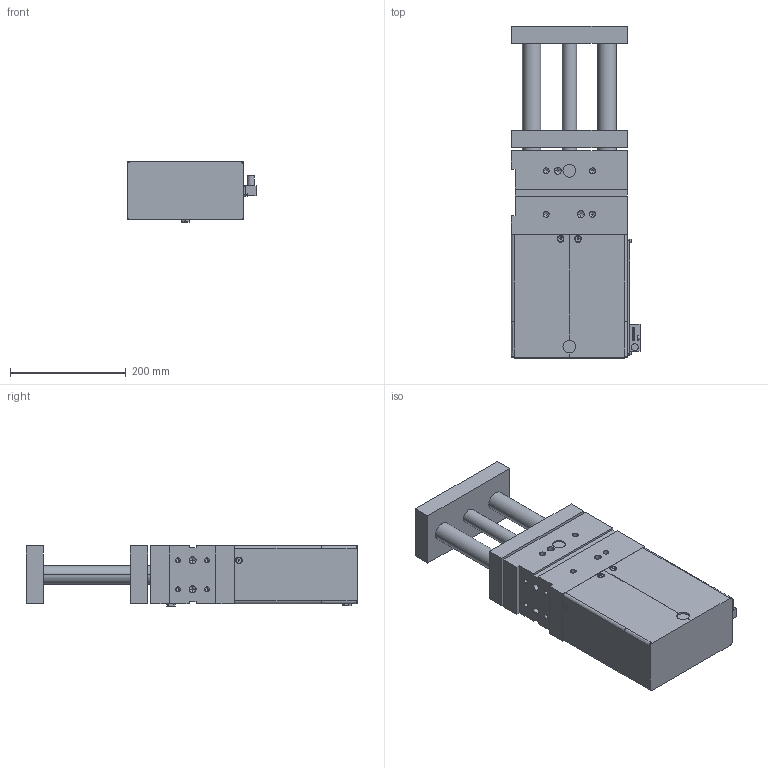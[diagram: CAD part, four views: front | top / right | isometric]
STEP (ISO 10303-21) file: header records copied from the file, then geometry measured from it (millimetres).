
FILE_DESCRIPTION(('CATIA V5 STEP Exchange'),'2;1');
FILE_NAME('C:\Users\huberm\Desktop\MZVD_40_180_PR_T12_TUENKERS.stp','2014-10-13T15:25:53+00:00',('none'),('none'),'CATIA Version 5 Release 19 SP 9 (IN-10)','CATIA V5 STEP AP203','none');
FILE_SCHEMA(('CONFIG_CONTROL_DESIGN'));
Products named in the file (1): MZVD_40_180_PR_T12_TUENKERS
Bounding box: 223 x 573 x 104 mm (x, y, z)
Volume: 8997035.4 mm3; surface area: 555194.6 mm2
Topology: 15 solids, 16 shells, 1577 faces, 4636 edges, 3072 vertices
Faces by surface type: bspline 816, plane 544, cylinder 125, cone 74, torus 14, extrusion 4
Entity records: 55198 total; most frequent: CARTESIAN_POINT 23229, ORIENTED_EDGE 8924, EDGE_CURVE 4462, DIRECTION 3125, VERTEX_POINT 3073, B_SPLINE_CURVE_WITH_KNOTS 2029, EDGE_LOOP 1753, ADVANCED_FACE 1577
